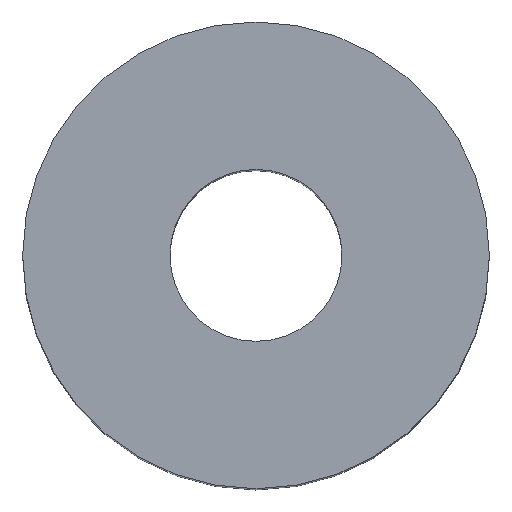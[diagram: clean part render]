
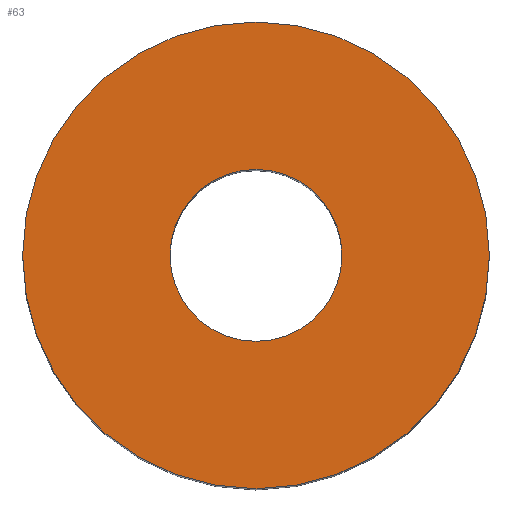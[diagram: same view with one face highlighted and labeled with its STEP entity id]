
A CAD part, top view. The second image highlights one B-rep face of the part: STEP entity #63.
In plain terms, the highlighted planar face has unit normal (0, 0, 1).
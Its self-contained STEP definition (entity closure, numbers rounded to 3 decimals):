
#15=FACE_BOUND('',#26,.T.);
#17=PLANE('',#85);
#21=FACE_OUTER_BOUND('',#25,.T.);
#25=EDGE_LOOP('',(#55));
#26=EDGE_LOOP('',(#56));
#33=CIRCLE('',#80,1.75);
#35=CIRCLE('',#83,4.75);
#37=VERTEX_POINT('',#109);
#39=VERTEX_POINT('',#115);
#41=EDGE_CURVE('',#37,#37,#33,.T.);
#44=EDGE_CURVE('',#39,#39,#35,.T.);
#55=ORIENTED_EDGE('',*,*,#44,.T.);
#56=ORIENTED_EDGE('',*,*,#41,.T.);
#63=ADVANCED_FACE('',(#21,#15),#17,.T.);
#80=AXIS2_PLACEMENT_3D('',#110,#91,#92);
#83=AXIS2_PLACEMENT_3D('',#116,#98,#99);
#85=AXIS2_PLACEMENT_3D('',#120,#103,#104);
#91=DIRECTION('center_axis',(0.,0.,-1.));
#92=DIRECTION('ref_axis',(1.,0.,0.));
#98=DIRECTION('center_axis',(0.,0.,1.));
#99=DIRECTION('ref_axis',(1.,0.,0.));
#103=DIRECTION('center_axis',(0.,0.,1.));
#104=DIRECTION('ref_axis',(1.,0.,0.));
#109=CARTESIAN_POINT('',(-1.75,0.,15.));
#110=CARTESIAN_POINT('Origin',(0.,0.,15.));
#115=CARTESIAN_POINT('',(-4.75,0.,15.));
#116=CARTESIAN_POINT('Origin',(0.,0.,15.));
#120=CARTESIAN_POINT('Origin',(0.,0.,15.));
